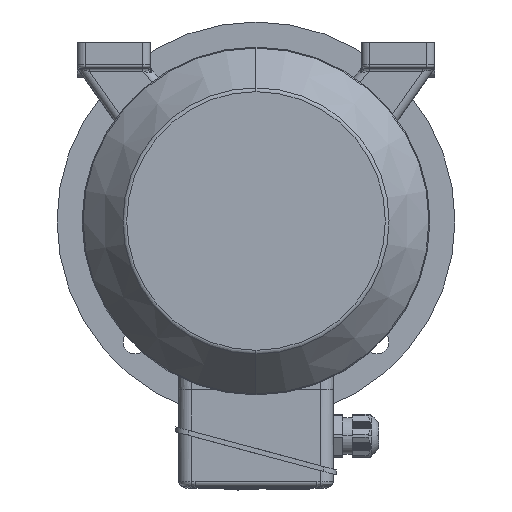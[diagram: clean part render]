
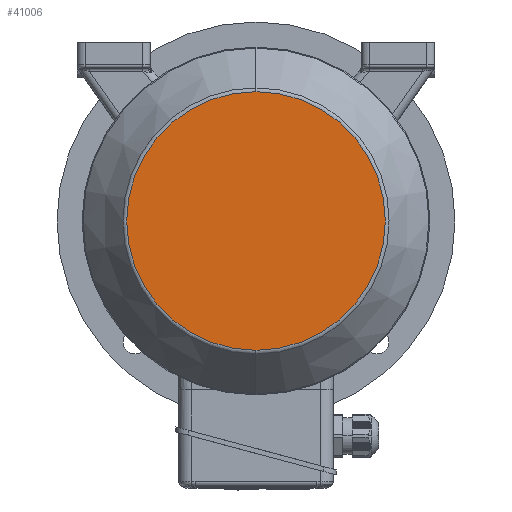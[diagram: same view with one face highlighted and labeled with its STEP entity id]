
A CAD part, left-side view. The second image highlights one B-rep face of the part: STEP entity #41006.
In plain terms, the highlighted planar face has unit normal (-1, 0, 0).
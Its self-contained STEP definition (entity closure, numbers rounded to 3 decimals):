
#994 = CARTESIAN_POINT ( 'NONE',  ( -198.75, 0., 0. ) ) ;
#1964 = EDGE_CURVE ( 'NONE', #8128, #14656, #2233, .T. ) ;
#2233 = CIRCLE ( 'NONE', #47606, 81.227 ) ;
#2874 = CARTESIAN_POINT ( 'NONE',  ( -198.75, 0., -81.227 ) ) ;
#3229 = AXIS2_PLACEMENT_3D ( 'NONE', #33854, #14251, #29920 ) ;
#6356 = CARTESIAN_POINT ( 'NONE',  ( -198.75, 0., 0. ) ) ;
#6854 = DIRECTION ( 'NONE',  ( 1., 0., 0. ) ) ;
#8128 = VERTEX_POINT ( 'NONE', #24297 ) ;
#8144 = EDGE_CURVE ( 'NONE', #14656, #8128, #40036, .T. ) ;
#14251 = DIRECTION ( 'NONE',  ( -1., 0., 0. ) ) ;
#14656 = VERTEX_POINT ( 'NONE', #2874 ) ;
#14796 = DIRECTION ( 'NONE',  ( 0., 0., -1. ) ) ;
#15195 = ORIENTED_EDGE ( 'NONE', *, *, #8144, .F. ) ;
#15711 = EDGE_LOOP ( 'NONE', ( #15195, #23442 ) ) ;
#20400 = DIRECTION ( 'NONE',  ( 1., 0., 0. ) ) ;
#23442 = ORIENTED_EDGE ( 'NONE', *, *, #1964, .F. ) ;
#24297 = CARTESIAN_POINT ( 'NONE',  ( -198.75, 0., 81.227 ) ) ;
#29920 = DIRECTION ( 'NONE',  ( 0., 1., 0. ) ) ;
#33854 = CARTESIAN_POINT ( 'NONE',  ( -198.75, 0., -81.227 ) ) ;
#38210 = FACE_OUTER_BOUND ( 'NONE', #15711, .T. ) ;
#40036 = CIRCLE ( 'NONE', #48181, 81.227 ) ;
#40520 = DIRECTION ( 'NONE',  ( 0., 0., -1. ) ) ;
#41006 = ADVANCED_FACE ( 'NONE', ( #38210 ), #48548, .T. ) ;
#47606 = AXIS2_PLACEMENT_3D ( 'NONE', #6356, #6854, #14796 ) ;
#48181 = AXIS2_PLACEMENT_3D ( 'NONE', #994, #20400, #40520 ) ;
#48548 = PLANE ( 'NONE',  #3229 ) ;
